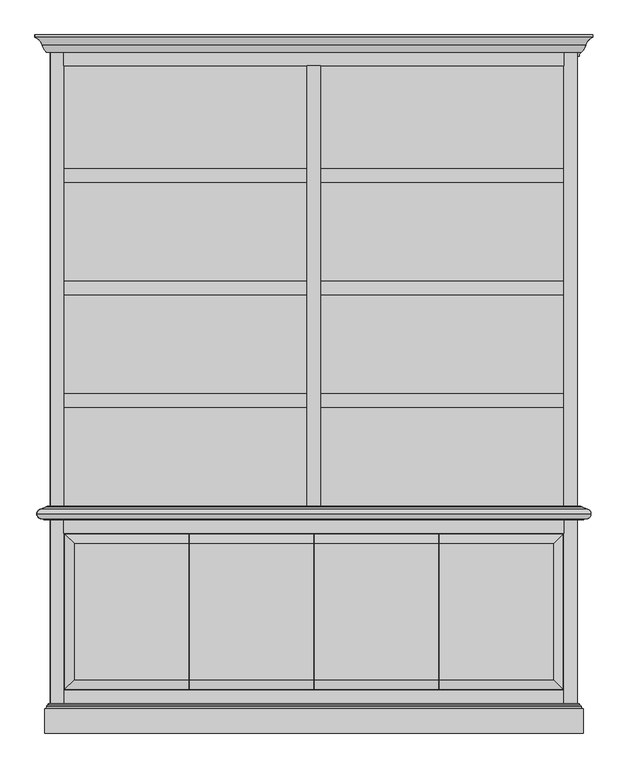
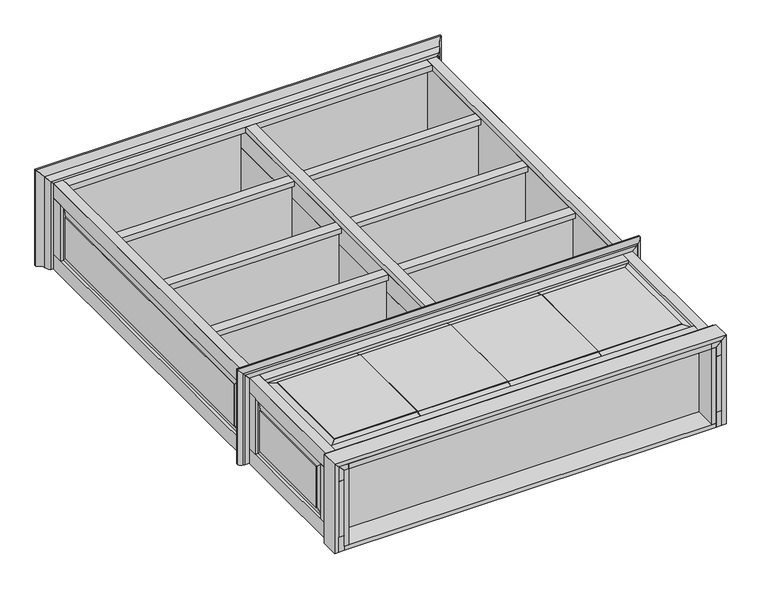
"""IFC4 building model written with IfcOpenShell, lengths in millimetres: proxy geometry, CAMBRIDGE^STORAGE 1_2 DOOR 3 SHELVES-PARTS SOLID."""

from ifc_helpers import new_model, si_unit, frame, origin, origin_with_axes, place, context, project, spatial, polyline, circle_curve, ellipse_curve, outline, extrude, faceted_brep, source, transform, mapped, element, save
from ifc_brep_helpers import plane_surface, cylinder_surface, revolved_surface, advanced_brep


def generic_models_68b85fac(model_context):
    return source(origin(), model_context, "Body", "SolidModel", [
        extrude(outline(polyline([(814.3875, 1847.85), (814.3875, 1822.45), (20.6375, 1822.45), (20.6375, 1847.85), (814.3875, 1847.85)])), frame((0.0, 0.0, 19.05), z_axis=(0.0, 0.0, 1.0), x_axis=(1.0, 0.0, 0.0)), (0.0, 0.0, 1.0), 336.55),
        extrude(outline(polyline([(862.0125, 1822.45), (862.0125, 1847.85), (1655.7625, 1847.85), (1655.7625, 1822.45), (862.0125, 1822.45)])), frame((0.0, 0.0, 19.05), z_axis=(0.0, 0.0, 1.0), x_axis=(1.0, 0.0, 0.0)), (0.0, 0.0, 1.0), 336.55),
        advanced_brep(
        [(1727.1440118, 2286.0, 431.7440118), (1701.8, 2249.805, 406.4), (-25.4, 2249.805, 406.4), (-50.7440118, 2286.0, 431.7440118), (-38.4061695, 2228.85, 419.4061695), (1714.8061695, 2228.85, 419.4061695), (1728.5133719, 2252.0938145, 433.1133719), (-52.1133719, 2252.0938145, 433.1133719), (1752.6, 2278.0752, 457.2), (-76.2, 2278.0752, 457.2), (1701.8, 2228.85, 406.4), (-25.4, 2228.85, 406.4), (-76.2, 2286.0, 457.2), (1752.6, 2286.0, 457.2)],
        [
            (0, 1),
            (1, 2),
            (2, 3),
            (3, 0),
            (4, 5),
            (5, 6, ellipse_curve(frame((1679.4734, 2265.3498, 384.0734), z_axis=(-0.7071067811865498, 0.0, 0.7071067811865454), x_axis=(-0.7071067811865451, 0.0, -0.7071067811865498)), 71.842049, 50.8)),
            (6, 7),
            (7, 4, ellipse_curve(frame((-3.0734, 2265.3498, 384.0734), z_axis=(0.7071067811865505, 0.0, 0.7071067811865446), x_axis=(-0.7071067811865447, 0.0, 0.7071067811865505)), 71.842049, 50.8)),
            (6, 8, ellipse_curve(frame((1765.2933509, 2242.1518254, 469.8933509), z_axis=(0.7071067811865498, 0.0, -0.7071067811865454), x_axis=(-0.7071067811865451, 0.0, -0.7071067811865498)), 53.8815367, 38.1)),
            (8, 9),
            (9, 7, ellipse_curve(frame((-88.8933509, 2242.1518254, 469.8933509), z_axis=(-0.7071067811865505, 0.0, -0.7071067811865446), x_axis=(-0.7071067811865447, 0.0, 0.7071067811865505)), 53.8815367, 38.1)),
            (1, 10),
            (10, 11),
            (11, 2),
            (11, 4),
            (9, 12),
            (12, 3),
            (10, 5),
            (8, 13),
            (13, 12),
            (0, 13),
        ],
        [
            plane_surface(frame((1701.8, 2249.805, 406.4), z_axis=(0.0, 0.5735764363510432, -0.8191520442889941), x_axis=(0.4975428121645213, 0.7105647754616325, 0.49754281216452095))),
            cylinder_surface(frame((1679.4734, 2265.3498, 384.0734), z_axis=(-1.0, 0.0, 0.0), x_axis=(0.0, 0.0, -1.0)), 50.8),
            revolved_surface(polyline([(-126.9933508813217, 2242.1518254, 431.79335089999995), (1803.3933508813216, 2242.1518254, 431.79335089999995)]), (1765.2933509, 2242.1518254, 469.8933509), (-1.0, 0.0, 0.0)),
            plane_surface(frame((1701.8, 2241.55, 406.4), z_axis=(0.0, 0.0, -1.0), x_axis=(-1.0, 0.0, 0.0))),
            plane_surface(frame((-25.4, 2241.55, 406.4), z_axis=(-0.7071067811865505, 0.0, -0.7071067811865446), x_axis=(-0.7071067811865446, 0.0, 0.7071067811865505))),
            plane_surface(frame((838.2, 2228.85, 431.8), z_axis=(0.0, -1.0, 0.0), x_axis=(0.0, 0.0, -1.0))),
            plane_surface(frame((-76.2, 2241.55, 457.2), z_axis=(0.0, 0.0, 1.0), x_axis=(1.0, 0.0, 0.0))),
            plane_surface(frame((1752.6, 2241.55, 457.2), z_axis=(0.7071067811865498, 0.0, -0.7071067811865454), x_axis=(-0.7071067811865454, 0.0, -0.7071067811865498))),
            plane_surface(frame((838.2, 2286.0, 431.8), z_axis=(0.0, 1.0, 0.0), x_axis=(0.0, 0.0, 1.0))),
        ],
        [
            (0, [[1, 2, 3, 4]]),
            (1, [[5, 6, 7, 8]]),
            (2, [[9, 10, 11, -7]]),
            (3, [[-2, 12, 13, 14]]),
            (4, [[-3, -14, 15, -8, -11, 16, 17]]),
            (5, [[-5, -15, -13, 18]]),
            (6, [[-10, 19, 20, -16]]),
            (7, [[-1, 21, -19, -9, -6, -18, -12]]),
            (8, [[-4, -17, -20, -21]]),
        ],
    ),
        advanced_brep(
        [(-52.851212, 701.6587803, 433.851212), (-69.85, 716.9259044, 450.85), (-69.85, 716.9259044, 0.0), (-52.851212, 701.6587803, 0.0), (-46.8882387, 698.5, 427.8882387), (-46.8882387, 698.5, 0.0), (-69.85, 718.0605577, 450.85), (-53.9851405, 733.3682311, 434.9851405), (-53.9851405, 733.3682311, 0.0), (-69.85, 718.0605577, 0.0), (-53.9851405, 734.9557311, 434.9851405), (-53.9851405, 734.9557311, 0.0), (-39.1133126, 740.3686338, 420.1133126), (-39.1133126, 740.3686338, 0.0), (-35.9028814, 742.95, 416.9028814), (-35.9028814, 742.95, 0.0), (-25.4, 698.5, 406.4), (-25.4, 742.95, 406.4), (-25.4, 742.95, 0.0), (-25.4, 698.5, 0.0)],
        [
            (0, 1, ellipse_curve(frame((-53.9851405, 717.4932311, 434.9851405), z_axis=(-0.7071067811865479, 0.0, -0.7071067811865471), x_axis=(0.7071067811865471, 0.0, -0.7071067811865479)), 22.4506403, 15.875)),
            (1, 2),
            (2, 3, circle_curve(frame((-53.9851405, 717.4932311, 0.0), z_axis=(0.0, 0.0, 1.0), x_axis=(-1.0, 0.0, 0.0)), 15.875)),
            (3, 0),
            (4, 0, ellipse_curve(frame((-52.3879067, 695.3257046, 433.3879067), z_axis=(0.7071067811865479, 0.0, 0.7071067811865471), x_axis=(0.7071067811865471, 0.0, -0.7071067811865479)), 8.9802561, 6.35)),
            (3, 5, circle_curve(frame((-52.3879067, 695.3257046, 0.0), z_axis=(0.0, 0.0, -1.0), x_axis=(1.0, 0.0, 0.0)), 6.35)),
            (5, 4),
            (6, 7, ellipse_curve(frame((-53.9851405, 717.4932311, 434.9851405), z_axis=(-0.7071067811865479, 0.0, -0.7071067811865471), x_axis=(0.7071067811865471, 0.0, -0.7071067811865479)), 22.4506403, 15.875)),
            (7, 8),
            (8, 9, circle_curve(frame((-53.9851405, 717.4932311, 0.0), z_axis=(0.0, 0.0, 1.0), x_axis=(-1.0, 0.0, 0.0)), 15.875)),
            (9, 6),
            (7, 10),
            (10, 11),
            (11, 8),
            (10, 12),
            (12, 13),
            (13, 11),
            (12, 14, ellipse_curve(frame((-41.2719911, 746.3404515, 422.2719911), z_axis=(0.7071067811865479, 0.0, 0.7071067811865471), x_axis=(0.7071067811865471, 0.0, -0.7071067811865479)), 8.9802561, 6.35)),
            (14, 15),
            (15, 13, circle_curve(frame((-41.2719911, 746.3404515, 0.0), z_axis=(0.0, 0.0, -1.0), x_axis=(1.0, 0.0, 0.0)), 6.35)),
            (4, 16),
            (16, 17),
            (17, 14),
            (6, 1),
            (9, 2),
            (17, 18),
            (18, 15),
            (16, 19),
            (19, 18),
            (5, 19),
        ],
        [
            cylinder_surface(frame((-53.9851405, 717.4932311, 434.9851405), z_axis=(0.0, 0.0, -1.0), x_axis=(-1.0, 0.0, 0.0)), 15.875),
            revolved_surface(polyline([(-46.0379067, 695.3257046, 0.0), (-46.0379067, 695.3257046, 439.73790668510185)]), (-52.3879067, 695.3257046, 433.3879067), (0.0, 0.0, -1.0)),
            plane_surface(frame((-53.9851405, 734.9557311, 434.9851405), z_axis=(-1.0, 0.0, 0.0), x_axis=(0.0, -1.0, 0.0))),
            plane_surface(frame((-39.1133126, 740.3686338, 420.1133126), z_axis=(-0.34202014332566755, 0.939692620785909, 0.0), x_axis=(-0.6847910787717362, -0.2492435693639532, 0.6847910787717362))),
            revolved_surface(polyline([(-34.9219911, 746.3404515, 0.0), (-34.9219911, 746.3404515, 428.62199108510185)]), (-41.2719911, 746.3404515, 422.2719911), (0.0, 0.0, -1.0)),
            plane_surface(frame((-47.625, 720.725, 428.625), z_axis=(0.7071067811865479, 0.0, 0.7071067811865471), x_axis=(-0.7071067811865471, 0.0, 0.7071067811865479))),
            plane_surface(frame((-69.85, 742.95, 0.0), z_axis=(-1.0, 0.0, 0.0), x_axis=(0.0, -1.0, 0.0))),
            plane_surface(frame((-25.4, 742.95, 0.0), z_axis=(0.0, 1.0, 0.0), x_axis=(-1.0, 0.0, 0.0))),
            plane_surface(frame((-25.4, 698.5, 0.0), z_axis=(1.0, 0.0, 0.0), x_axis=(0.0, 1.0, 0.0))),
            plane_surface(frame((-69.85, 698.5, 0.0), z_axis=(0.0, -1.0, 0.0), x_axis=(1.0, 0.0, 0.0))),
            plane_surface(frame((-47.625, 720.725, 0.0), z_axis=(0.0, 0.0, -1.0), x_axis=(-1.0, 0.0, 0.0))),
        ],
        [
            (0, [[1, 2, 3, 4]]),
            (1, [[5, -4, 6, 7]]),
            (0, [[8, 9, 10, 11]]),
            (2, [[12, 13, 14, -9]]),
            (3, [[15, 16, 17, -13]]),
            (4, [[18, 19, 20, -16]]),
            (5, [[-1, -5, 21, 22, 23, -18, -15, -12, -8, 24]]),
            (6, [[-2, -24, -11, 25]]),
            (7, [[-19, -23, 26, 27]]),
            (8, [[-22, 28, 29, -26]]),
            (9, [[-7, 30, -28, -21]]),
            (10, [[-3, -25, -10, -14, -17, -20, -27, -29, -30, -6]]),
        ],
    ),
        advanced_brep(
        [(1720.85, 79.375, 425.45), (1714.5, 85.725, 419.1), (-38.1, 85.725, 419.1), (-44.45, 79.375, 425.45), (1708.15, 92.075, 412.75), (-31.75, 92.075, 412.75), (1708.15, 95.25, 412.75), (-31.75, 95.25, 412.75), (1701.8, 95.25, 406.4), (-25.4, 95.25, 406.4), (1720.85, 0.0, 425.45), (1701.8, 0.0, 406.4), (-44.45, 0.0, 425.45), (-25.4, 0.0, 406.4)],
        [
            (0, 1, ellipse_curve(frame((1720.85, 85.725, 425.45), z_axis=(0.7071067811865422, 0.0, -0.7071067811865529), x_axis=(-0.7071067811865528, 0.0, -0.7071067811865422)), 8.9802561, 6.35)),
            (1, 2),
            (2, 3, ellipse_curve(frame((-44.45, 85.725, 425.45), z_axis=(-0.7071067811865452, 0.0, -0.7071067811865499), x_axis=(-0.7071067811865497, 0.0, 0.7071067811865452)), 8.9802561, 6.35)),
            (3, 0),
            (1, 4, ellipse_curve(frame((1708.15, 85.725, 412.75), z_axis=(-0.7071067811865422, 0.0, 0.7071067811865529), x_axis=(-0.7071067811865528, 0.0, -0.7071067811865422)), 8.9802561, 6.35)),
            (4, 5),
            (5, 2, ellipse_curve(frame((-31.75, 85.725, 412.75), z_axis=(0.7071067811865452, 0.0, 0.7071067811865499), x_axis=(-0.7071067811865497, 0.0, 0.7071067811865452)), 8.9802561, 6.35)),
            (4, 6),
            (6, 7),
            (7, 5),
            (6, 8),
            (8, 9),
            (9, 7),
            (0, 10),
            (10, 11),
            (11, 8),
            (3, 12),
            (12, 10),
            (9, 13),
            (13, 12),
            (11, 13),
        ],
        [
            revolved_surface(polyline([(-50.79999998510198, 85.725, 431.8), (1727.1999999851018, 85.725, 431.8)]), (1720.85, 85.725, 425.45), (-1.0, 0.0, 0.0)),
            cylinder_surface(frame((1708.15, 85.725, 412.75), z_axis=(-1.0, 0.0, 0.0), x_axis=(0.0, 0.0, 1.0)), 6.35),
            plane_surface(frame((1708.15, 95.25, 412.75), z_axis=(0.0, 0.0, 1.0), x_axis=(0.0, -1.0, 0.0))),
            plane_surface(frame((838.2, 95.25, 415.925), z_axis=(0.0, 1.0, 0.0), x_axis=(0.0, 0.0, 1.0))),
            plane_surface(frame((1720.85, 0.0, 425.45), z_axis=(0.7071067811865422, 0.0, -0.7071067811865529), x_axis=(-0.7071067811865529, 0.0, -0.7071067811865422))),
            plane_surface(frame((-44.45, 0.0, 425.45), z_axis=(0.0, 0.0, 1.0), x_axis=(1.0, 0.0, 0.0))),
            plane_surface(frame((-25.4, 0.0, 406.4), z_axis=(-0.7071067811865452, 0.0, -0.7071067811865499), x_axis=(-0.7071067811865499, 0.0, 0.7071067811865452))),
            plane_surface(frame((1701.8, 0.0, 406.4), z_axis=(0.0, 0.0, -1.0), x_axis=(-1.0, 0.0, 0.0))),
            plane_surface(frame((838.2, 0.0, 415.925), z_axis=(0.0, -1.0, 0.0), x_axis=(0.0, 0.0, -1.0))),
        ],
        [
            (0, [[1, 2, 3, 4]]),
            (1, [[5, 6, 7, -2]]),
            (2, [[8, 9, 10, -6]]),
            (3, [[-9, 11, 12, 13]]),
            (4, [[-8, -5, -1, 14, 15, 16, -11]]),
            (5, [[-4, 17, 18, -14]]),
            (6, [[-10, -13, 19, 20, -17, -3, -7]]),
            (7, [[21, -19, -12, -16]]),
            (8, [[-15, -18, -20, -21]]),
        ],
    ),
        extrude(outline(polyline([(814.3875, 1847.85), (814.3875, 1803.4), (20.6375, 1803.4), (20.6375, 1847.85), (814.3875, 1847.85)])), frame((0.0, 0.0, 355.6), z_axis=(0.0, 0.0, 1.0), x_axis=(1.0, 0.0, 0.0)), (0.0, 0.0, 1.0), 25.4),
        extrude(outline(polyline([(862.0125, 1803.4), (862.0125, 1847.85), (1655.7625, 1847.85), (1655.7625, 1803.4), (862.0125, 1803.4)])), frame((0.0, 0.0, 355.6), z_axis=(0.0, 0.0, 1.0), x_axis=(1.0, 0.0, 0.0)), (0.0, 0.0, 1.0), 25.4),
        advanced_brep(
        [(1720.85, 79.375, 0.0), (1714.5, 85.725, 0.0), (1714.5, 85.725, 419.1), (1720.85, 79.375, 425.45), (1708.15, 92.075, 0.0), (1708.15, 92.075, 412.75), (1708.15, 95.25, 0.0), (1708.15, 95.25, 412.75), (1701.8, 95.25, 406.4), (1701.8, 0.0, 406.4), (1720.85, 0.0, 425.45), (1701.8, 95.25, 0.0), (1701.8, 0.0, 0.0), (1720.85, 0.0, 0.0)],
        [
            (0, 1, circle_curve(frame((1720.85, 85.725, 0.0), z_axis=(0.0, 0.0, -1.0), x_axis=(0.0, -1.0, 0.0)), 6.35)),
            (1, 2),
            (2, 3, ellipse_curve(frame((1720.85, 85.725, 425.45), z_axis=(-0.7071067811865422, 0.0, 0.7071067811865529), x_axis=(0.707106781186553, 0.0, 0.707106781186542)), 8.9802561, 6.35)),
            (3, 0),
            (1, 4, circle_curve(frame((1708.15, 85.725, 0.0), z_axis=(0.0, 0.0, 1.0), x_axis=(0.0, -1.0, 0.0)), 6.35)),
            (4, 5),
            (5, 2, ellipse_curve(frame((1708.15, 85.725, 412.75), z_axis=(0.7071067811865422, 0.0, -0.7071067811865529), x_axis=(0.707106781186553, 0.0, 0.707106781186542)), 8.9802561, 6.35)),
            (4, 6),
            (6, 7),
            (7, 5),
            (7, 8),
            (8, 9),
            (9, 10),
            (10, 3),
            (6, 11),
            (11, 8),
            (12, 9),
            (11, 12),
            (0, 13),
            (13, 12),
            (10, 13),
        ],
        [
            revolved_surface(polyline([(1720.85, 79.375, 431.7999999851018), (1720.85, 79.375, 0.0)]), (1720.85, 85.725, 0.0), (0.0, 0.0, 1.0)),
            cylinder_surface(frame((1708.15, 85.725, 0.0), z_axis=(0.0, 0.0, 1.0), x_axis=(0.0, -1.0, 0.0)), 6.35),
            plane_surface(frame((1708.15, 95.25, 0.0), z_axis=(1.0, 0.0, 0.0), x_axis=(0.0, -1.0, 0.0))),
            plane_surface(frame((1701.8, 0.0, 406.4), z_axis=(-0.7071067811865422, 0.0, 0.7071067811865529), x_axis=(0.7071067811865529, 0.0, 0.7071067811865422))),
            plane_surface(frame((1711.325, 95.25, 212.725), z_axis=(0.0, 1.0, 0.0), x_axis=(0.0, 0.0, 1.0))),
            plane_surface(frame((1701.8, 0.0, 0.0), z_axis=(-1.0, 0.0, 0.0), x_axis=(0.0, 0.0, 1.0))),
            plane_surface(frame((1720.85, 0.0, 0.0), z_axis=(0.0, 0.0, -1.0), x_axis=(-1.0, 0.0, 0.0))),
            plane_surface(frame((1720.85, 0.0, 425.45), z_axis=(1.0, 0.0, 0.0), x_axis=(0.0, 0.0, -1.0))),
            plane_surface(frame((1711.325, 0.0, 212.725), z_axis=(0.0, -1.0, 0.0), x_axis=(0.0, 0.0, -1.0))),
        ],
        [
            (0, [[1, 2, 3, 4]]),
            (1, [[5, 6, 7, -2]]),
            (2, [[8, 9, 10, -6]]),
            (3, [[-3, -7, -10, 11, 12, 13, 14]]),
            (4, [[-9, 15, 16, -11]]),
            (5, [[17, -12, -16, 18]]),
            (6, [[-1, 19, 20, -18, -15, -8, -5]]),
            (7, [[-4, -14, 21, -19]]),
            (8, [[-21, -13, -17, -20]]),
        ],
    ),
        extrude(outline(polyline([(1657.35, 742.95), (1657.35, 711.2), (19.05, 711.2), (19.05, 742.95), (1657.35, 742.95)])), frame((0.0, 0.0, 19.05), z_axis=(0.0, 0.0, 1.0), x_axis=(1.0, 0.0, 0.0)), (0.0, 0.0, 1.0), 387.35),
        extrude(outline(polyline([(0.0, 2241.55), (0.0, 2171.7), (-25.4, 2171.7), (-25.4, 2241.55), (0.0, 2241.55)])), frame((0.0, 0.0, 69.85), z_axis=(0.0, 0.0, 1.0), x_axis=(1.0, 0.0, 0.0)), (0.0, 0.0, 1.0), 266.7),
        extrude(outline(polyline([(814.3875, 1479.55), (814.3875, 1435.1), (20.6375, 1435.1), (20.6375, 1479.55), (814.3875, 1479.55)])), frame((0.0, 0.0, 355.6), z_axis=(0.0, 0.0, 1.0), x_axis=(1.0, 0.0, 0.0)), (0.0, 0.0, 1.0), 25.4),
        extrude(outline(polyline([(862.0125, 1435.1), (862.0125, 1479.55), (1655.7625, 1479.55), (1655.7625, 1435.1), (862.0125, 1435.1)])), frame((0.0, 0.0, 355.6), z_axis=(0.0, 0.0, 1.0), x_axis=(1.0, 0.0, 0.0)), (0.0, 0.0, 1.0), 25.4),
        extrude(outline(polyline([(1676.4, 2171.7), (1676.4, 2241.55), (1701.8, 2241.55), (1701.8, 2171.7), (1676.4, 2171.7)])), frame((0.0, 0.0, 69.85), z_axis=(0.0, 0.0, 1.0), x_axis=(1.0, 0.0, 0.0)), (0.0, 0.0, 1.0), 266.7),
        extrude(outline(polyline([(1676.4, 0.0), (1676.4, 2241.55), (1701.8, 2241.55), (1701.8, 0.0), (1676.4, 0.0)])), origin_with_axes(), (0.0, 0.0, 1.0), 69.85),
        advanced_brep(
        [(1727.1440118, 2286.0, 0.0), (1701.8, 2249.805, 0.0), (1701.8, 2249.805, 406.4), (1727.1440118, 2286.0, 431.7440118), (1707.3626, 2216.15, 0.0), (1707.3626, 2222.8900246, 0.0), (1707.3626, 2222.8900246, 411.9626), (1707.3626, 2216.15, 411.9626), (1728.5133719, 2252.0938145, 0.0), (1728.5133719, 2252.0938145, 433.1133719), (1752.6, 2278.0752, 0.0), (1752.6, 2278.0752, 457.2), (1701.8, 2216.15, 0.0), (1701.8, 2216.15, 406.4), (1752.6, 2286.0, 457.2), (1752.6, 2286.0, 0.0)],
        [
            (0, 1),
            (1, 2),
            (2, 3),
            (3, 0),
            (4, 5),
            (5, 6),
            (6, 7),
            (7, 4),
            (5, 8, circle_curve(frame((1679.4734, 2265.3498, 0.0), z_axis=(0.0, 0.0, 1.0), x_axis=(-0.9653537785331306, 0.26094459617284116, 0.0)), 50.8)),
            (8, 9),
            (9, 6, ellipse_curve(frame((1679.4734, 2265.3498, 384.0734), z_axis=(0.7071067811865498, 0.0, -0.7071067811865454), x_axis=(0.7071067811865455, 0.0, 0.7071067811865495)), 71.842049, 50.8)),
            (8, 10, circle_curve(frame((1765.2933509, 2242.1518254, 0.0), z_axis=(0.0, 0.0, -1.0), x_axis=(-0.9653537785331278, 0.2609445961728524, 0.0)), 38.1)),
            (10, 11),
            (11, 9, ellipse_curve(frame((1765.2933509, 2242.1518254, 469.8933509), z_axis=(-0.7071067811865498, 0.0, 0.7071067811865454), x_axis=(0.7071067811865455, 0.0, 0.7071067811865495)), 53.8815367, 38.1)),
            (1, 12),
            (12, 13),
            (13, 2),
            (13, 7),
            (11, 14),
            (14, 3),
            (12, 4),
            (0, 15),
            (15, 10),
            (15, 14),
        ],
        [
            plane_surface(frame((1701.8, 2249.805, 0.0), z_axis=(-0.819152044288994, 0.573576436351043, 0.0), x_axis=(0.573576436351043, 0.819152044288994, 0.0))),
            plane_surface(frame((1707.3626, 2222.8900246, 0.0), z_axis=(1.0, 0.0, 0.0), x_axis=(0.0, -1.0, 0.0))),
            cylinder_surface(frame((1679.4734, 2265.3498, 0.0), z_axis=(0.0, 0.0, 0.9999999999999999), x_axis=(-0.9653537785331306, 0.26094459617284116, 0.0)), 50.8),
            revolved_surface(polyline([(1728.5133719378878, 2252.0938145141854, 507.99335088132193), (1728.5133719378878, 2252.0938145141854, 0.0)]), (1765.2933509, 2242.1518254, 0.0), (0.0, 0.0, 1.0)),
            plane_surface(frame((1701.8, 2241.55, 0.0), z_axis=(-1.0, 0.0, 0.0), x_axis=(0.0, 0.0, 1.0))),
            plane_surface(frame((1701.8, 2241.55, 406.4), z_axis=(-0.7071067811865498, 0.0, 0.7071067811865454), x_axis=(0.7071067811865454, 0.0, 0.7071067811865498))),
            plane_surface(frame((1727.2, 2216.15, 228.6), z_axis=(0.0, -1.0, 0.0), x_axis=(0.0, 0.0, -1.0))),
            plane_surface(frame((1752.6, 2241.55, 0.0), z_axis=(0.0, 0.0, -1.0), x_axis=(-1.0, 0.0, 0.0))),
            plane_surface(frame((1752.6, 2241.55, 457.2), z_axis=(1.0, 0.0, 0.0), x_axis=(0.0, 0.0, -1.0))),
            plane_surface(frame((1727.2, 2286.0, 228.6), z_axis=(0.0, 1.0, 0.0), x_axis=(0.0, 0.0, 1.0))),
        ],
        [
            (0, [[1, 2, 3, 4]]),
            (1, [[5, 6, 7, 8]]),
            (2, [[9, 10, 11, -6]]),
            (3, [[12, 13, 14, -10]]),
            (4, [[-2, 15, 16, 17]]),
            (5, [[-3, -17, 18, -7, -11, -14, 19, 20]]),
            (6, [[-8, -18, -16, 21]]),
            (7, [[-1, 22, 23, -12, -9, -5, -21, -15]]),
            (8, [[-13, -23, 24, -19]]),
            (9, [[-4, -20, -24, -22]]),
        ],
    ),
        extrude(outline(polyline([(860.425, 2184.4), (860.425, 742.95), (815.975, 742.95), (815.975, 2184.4), (860.425, 2184.4)])), frame((0.0, 0.0, 381.0), z_axis=(0.0, 0.0, 1.0), x_axis=(1.0, 0.0, 0.0)), (0.0, 0.0, 1.0), 25.4),
        advanced_brep(
        [(1729.251212, 701.6587803, 433.851212), (1746.25, 716.9259044, 450.85), (-69.85, 716.9259044, 450.85), (-52.851212, 701.6587803, 433.851212), (1723.2882387, 698.5, 427.8882387), (-46.8882387, 698.5, 427.8882387), (1746.25, 718.0605577, 450.85), (1730.3851405, 733.3682311, 434.9851405), (-53.9851405, 733.3682311, 434.9851405), (-69.85, 718.0605577, 450.85), (1730.3851405, 734.9557311, 434.9851405), (-53.9851405, 734.9557311, 434.9851405), (1715.5133126, 740.3686338, 420.1133126), (-39.1133126, 740.3686338, 420.1133126), (1712.3028814, 742.95, 416.9028814), (-35.9028814, 742.95, 416.9028814), (1701.8, 742.95, 406.4), (-25.4, 742.95, 406.4), (-25.4, 698.5, 406.4), (1701.8, 698.5, 406.4)],
        [
            (0, 1, ellipse_curve(frame((1730.3851405, 717.4932311, 434.9851405), z_axis=(-0.7071067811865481, 0.0, 0.707106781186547), x_axis=(-0.7071067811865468, 0.0, -0.7071067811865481)), 22.4506403, 15.875)),
            (1, 2),
            (2, 3, ellipse_curve(frame((-53.9851405, 717.4932311, 434.9851405), z_axis=(0.7071067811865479, 0.0, 0.7071067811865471), x_axis=(-0.7071067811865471, 0.0, 0.7071067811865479)), 22.4506403, 15.875)),
            (3, 0),
            (4, 0, ellipse_curve(frame((1728.7879067, 695.3257046, 433.3879067), z_axis=(0.7071067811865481, 0.0, -0.707106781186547), x_axis=(-0.7071067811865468, 0.0, -0.7071067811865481)), 8.9802561, 6.35)),
            (3, 5, ellipse_curve(frame((-52.3879067, 695.3257046, 433.3879067), z_axis=(-0.7071067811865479, 0.0, -0.7071067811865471), x_axis=(-0.7071067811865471, 0.0, 0.7071067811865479)), 8.9802561, 6.35)),
            (5, 4),
            (6, 7, ellipse_curve(frame((1730.3851405, 717.4932311, 434.9851405), z_axis=(-0.7071067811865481, 0.0, 0.707106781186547), x_axis=(-0.7071067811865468, 0.0, -0.7071067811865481)), 22.4506403, 15.875)),
            (7, 8),
            (8, 9, ellipse_curve(frame((-53.9851405, 717.4932311, 434.9851405), z_axis=(0.7071067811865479, 0.0, 0.7071067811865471), x_axis=(-0.7071067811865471, 0.0, 0.7071067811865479)), 22.4506403, 15.875)),
            (9, 6),
            (7, 10),
            (10, 11),
            (11, 8),
            (10, 12),
            (12, 13),
            (13, 11),
            (12, 14, ellipse_curve(frame((1717.6719911, 746.3404515, 422.2719911), z_axis=(0.7071067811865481, 0.0, -0.707106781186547), x_axis=(-0.7071067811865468, 0.0, -0.7071067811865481)), 8.9802561, 6.35)),
            (14, 15),
            (15, 13, ellipse_curve(frame((-41.2719911, 746.3404515, 422.2719911), z_axis=(-0.7071067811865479, 0.0, -0.7071067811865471), x_axis=(-0.7071067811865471, 0.0, 0.7071067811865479)), 8.9802561, 6.35)),
            (14, 16),
            (16, 17),
            (17, 15),
            (2, 9),
            (17, 18),
            (18, 5),
            (1, 6),
            (18, 19),
            (19, 4),
            (16, 19),
        ],
        [
            cylinder_surface(frame((1730.3851405, 717.4932311, 434.9851405), z_axis=(-1.0, 0.0, 0.0), x_axis=(0.0, 0.0, 1.0)), 15.875),
            revolved_surface(polyline([(-58.73790668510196, 695.3257046, 427.03790669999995), (1735.1379066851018, 695.3257046, 427.03790669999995)]), (1728.7879067, 695.3257046, 433.3879067), (-1.0, 0.0, 0.0)),
            plane_surface(frame((1730.3851405, 734.9557311, 434.9851405), z_axis=(0.0, 0.0, 1.0), x_axis=(0.0, -1.0, 0.0))),
            plane_surface(frame((1715.5133126, 740.3686338, 420.1133126), z_axis=(0.0, 0.9396926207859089, 0.34202014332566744), x_axis=(0.6847910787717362, -0.24924356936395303, 0.6847910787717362))),
            revolved_surface(polyline([(-47.621991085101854, 746.3404515, 415.92199109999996), (1724.021991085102, 746.3404515, 415.92199109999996)]), (1717.6719911, 746.3404515, 422.2719911), (-1.0, 0.0, 0.0)),
            plane_surface(frame((1701.8, 742.95, 406.4), z_axis=(0.0, 1.0, 0.0), x_axis=(-1.0, 0.0, 0.0))),
            plane_surface(frame((-47.625, 720.725, 428.625), z_axis=(-0.7071067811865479, 0.0, -0.7071067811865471), x_axis=(-0.7071067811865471, 0.0, 0.7071067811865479))),
            plane_surface(frame((838.2, 720.725, 450.85), z_axis=(0.0, 0.0, 1.0), x_axis=(1.0, 0.0, 0.0))),
            plane_surface(frame((-25.4, 698.5, 406.4), z_axis=(0.0, -1.0, 0.0), x_axis=(1.0, 0.0, 0.0))),
            plane_surface(frame((838.2, 720.725, 406.4), z_axis=(0.0, 0.0, -1.0), x_axis=(1.0, 0.0, 0.0))),
            plane_surface(frame((1724.025, 720.725, 428.625), z_axis=(0.7071067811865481, 0.0, -0.707106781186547), x_axis=(-0.707106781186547, 0.0, -0.7071067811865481))),
        ],
        [
            (0, [[1, 2, 3, 4]]),
            (1, [[5, -4, 6, 7]]),
            (0, [[8, 9, 10, 11]]),
            (2, [[12, 13, 14, -9]]),
            (3, [[15, 16, 17, -13]]),
            (4, [[18, 19, 20, -16]]),
            (5, [[-19, 21, 22, 23]]),
            (6, [[-6, -3, 24, -10, -14, -17, -20, -23, 25, 26]]),
            (7, [[-2, 27, -11, -24]]),
            (8, [[-7, -26, 28, 29]]),
            (9, [[-25, -22, 30, -28]]),
            (10, [[-5, -29, -30, -21, -18, -15, -12, -8, -27, -1]]),
        ],
    ),
        extrude(outline(polyline([(0.0, 2222.5), (19.05, 2222.5), (19.05, 0.0), (0.0, 0.0), (0.0, 2222.5)])), frame((0.0, 0.0, 19.05), z_axis=(0.0, 0.0, 1.0), x_axis=(1.0, 0.0, 0.0)), (0.0, 0.0, 1.0), 361.95),
        extrude(outline(polyline([(1676.4, 654.05), (1676.4, 787.4), (1701.8, 787.4), (1701.8, 654.05), (1676.4, 654.05)])), frame((0.0, 0.0, 69.85), z_axis=(0.0, 0.0, 1.0), x_axis=(1.0, 0.0, 0.0)), (0.0, 0.0, 1.0), 266.7),
        extrude(outline(polyline([(1657.35, 2222.5), (1676.4, 2222.5), (1676.4, 0.0), (1657.35, 0.0), (1657.35, 2222.5)])), frame((0.0, 0.0, 19.05), z_axis=(0.0, 0.0, 1.0), x_axis=(1.0, 0.0, 0.0)), (0.0, 0.0, 1.0), 361.95),
        faceted_brep([(-22.225, 174.625, 104.775), (-25.4, 174.625, 104.775), (-25.4, 619.125, 104.775), (-22.225, 619.125, 104.775), (-13.7176131, 142.875, 73.025), (-13.7176131, 650.875, 73.025), (-6.35, 142.875, 73.025), (-6.35, 650.875, 73.025), (-22.225, 174.625, 301.625), (-25.4, 174.625, 301.625), (-13.7176131, 142.875, 333.375), (-6.35, 142.875, 333.375), (-6.35, 654.05, 336.55), (-6.35, 654.05, 69.85), (-6.35, 139.7, 69.85), (-6.35, 139.7, 336.55), (-6.35, 650.875, 333.375), (-22.225, 619.125, 301.625), (-25.4, 619.125, 301.625), (-13.7176131, 650.875, 333.375), (0.0, 654.05, 69.85), (0.0, 139.7, 69.85), (0.0, 139.7, 336.55), (0.0, 654.05, 336.55)], [[[0, 1, 2, 3]], [[4, 0, 3, 5]], [[6, 4, 5, 7]], [[8, 9, 1, 0]], [[10, 8, 0, 4]], [[11, 10, 4, 6]], [[12, 13, 14, 15], [16, 11, 6, 7]], [[17, 18, 9, 8]], [[19, 17, 8, 10]], [[16, 19, 10, 11]], [[3, 2, 18, 17]], [[5, 3, 17, 19]], [[7, 5, 19, 16]], [[14, 13, 20, 21]], [[15, 14, 21, 22]], [[12, 15, 22, 23]], [[13, 12, 23, 20]], [[2, 1, 9, 18]], [[22, 21, 20, 23]]]),
        extrude(outline(polyline([(1657.35, 2241.55), (1657.35, 2184.4), (19.05, 2184.4), (19.05, 2241.55), (1657.35, 2241.55)])), frame((0.0, 0.0, 381.0), z_axis=(0.0, 0.0, 1.0), x_axis=(1.0, 0.0, 0.0)), (0.0, 0.0, 1.0), 25.4),
        extrude(outline(polyline([(142.875, 394.7176131), (174.625, 403.225), (174.625, 406.4), (619.125, 406.4), (619.125, 403.225), (650.875, 394.7176131), (650.875, 387.35), (142.875, 387.35), (142.875, 394.7176131)])), frame((431.00625, 0.0, 0.0), z_axis=(1.0, 0.0, 0.0), x_axis=(0.0, 1.0, 0.0)), (0.0, 0.0, 1.0), 405.60625),
        extrude(outline(polyline([(0.0, 787.4), (0.0, 654.05), (-25.4, 654.05), (-25.4, 787.4), (0.0, 787.4)])), frame((0.0, 0.0, 69.85), z_axis=(0.0, 0.0, 1.0), x_axis=(1.0, 0.0, 0.0)), (0.0, 0.0, 1.0), 266.7),
        extrude(outline(polyline([(0.0, 2241.55), (1676.4, 2241.55), (1676.4, 2222.5), (0.0, 2222.5), (0.0, 2241.55)])), frame((0.0, 0.0, 19.05), z_axis=(0.0, 0.0, 1.0), x_axis=(1.0, 0.0, 0.0)), (0.0, 0.0, 1.0), 361.95),
        advanced_brep(
        [(1729.251212, 701.6587803, 0.0), (1746.25, 716.9259044, 0.0), (1746.25, 716.9259044, 450.85), (1729.251212, 701.6587803, 433.851212), (1723.2882387, 698.5, 0.0), (1723.2882387, 698.5, 427.8882387), (1746.25, 718.0605577, 0.0), (1730.3851405, 733.3682311, 0.0), (1730.3851405, 733.3682311, 434.9851405), (1746.25, 718.0605577, 450.85), (1730.3851405, 734.9557311, 0.0), (1730.3851405, 734.9557311, 434.9851405), (1715.5133126, 740.3686338, 0.0), (1715.5133126, 740.3686338, 420.1133126), (1712.3028814, 742.95, 0.0), (1712.3028814, 742.95, 416.9028814), (1701.8, 698.5, 406.4), (1701.8, 698.5, 0.0), (1701.8, 742.95, 0.0), (1701.8, 742.95, 406.4)],
        [
            (0, 1, circle_curve(frame((1730.3851405, 717.4932311, 0.0), z_axis=(0.0, 0.0, 1.0), x_axis=(0.0, -1.0, 0.0)), 15.875)),
            (1, 2),
            (2, 3, ellipse_curve(frame((1730.3851405, 717.4932311, 434.9851405), z_axis=(0.7071067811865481, 0.0, -0.707106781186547), x_axis=(0.707106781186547, 0.0, 0.7071067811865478)), 22.4506403, 15.875)),
            (3, 0),
            (4, 0, circle_curve(frame((1728.7879067, 695.3257046, 0.0), z_axis=(0.0, 0.0, -1.0), x_axis=(-0.866089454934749, 0.4998890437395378, 0.0)), 6.35)),
            (3, 5, ellipse_curve(frame((1728.7879067, 695.3257046, 433.3879067), z_axis=(-0.7071067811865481, 0.0, 0.707106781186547), x_axis=(0.707106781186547, 0.0, 0.7071067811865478)), 8.9802561, 6.35)),
            (5, 4),
            (6, 7, circle_curve(frame((1730.3851405, 717.4932311, 0.0), z_axis=(0.0, 0.0, 1.0), x_axis=(0.0, -1.0, 0.0)), 15.875)),
            (7, 8),
            (8, 9, ellipse_curve(frame((1730.3851405, 717.4932311, 434.9851405), z_axis=(0.7071067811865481, 0.0, -0.707106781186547), x_axis=(0.707106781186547, 0.0, 0.7071067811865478)), 22.4506403, 15.875)),
            (9, 6),
            (7, 10),
            (10, 11),
            (11, 8),
            (10, 12),
            (12, 13),
            (13, 11),
            (12, 14, circle_curve(frame((1717.6719911, 746.3404515, 0.0), z_axis=(0.0, 0.0, -1.0), x_axis=(-0.3399493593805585, -0.9404437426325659, 0.0)), 6.35)),
            (14, 15),
            (15, 13, ellipse_curve(frame((1717.6719911, 746.3404515, 422.2719911), z_axis=(-0.7071067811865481, 0.0, 0.707106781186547), x_axis=(0.707106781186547, 0.0, 0.7071067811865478)), 8.9802561, 6.35)),
            (5, 16),
            (16, 17),
            (17, 4),
            (17, 18),
            (18, 14),
            (6, 1),
            (9, 2),
            (16, 19),
            (19, 18),
            (19, 15),
        ],
        [
            cylinder_surface(frame((1730.3851405, 717.4932311, 0.0), z_axis=(0.0, 0.0, 1.0), x_axis=(0.0, -1.0, 0.0)), 15.875),
            revolved_surface(polyline([(1723.2882386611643, 698.5000000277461, 439.73790668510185), (1723.2882386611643, 698.5000000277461, 0.0)]), (1728.7879067, 695.3257046, 0.0), (0.0, 0.0, 1.0)),
            plane_surface(frame((1730.3851405, 734.9557311, 0.0), z_axis=(1.0, 0.0, 0.0), x_axis=(0.0, -1.0, 0.0))),
            plane_surface(frame((1715.5133126, 740.3686338, 0.0), z_axis=(0.34202014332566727, 0.939692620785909, 0.0), x_axis=(0.939692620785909, -0.34202014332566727, 0.0))),
            revolved_surface(polyline([(1715.5133126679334, 740.3686337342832, 428.62199108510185), (1715.5133126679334, 740.3686337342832, 0.0)]), (1717.6719911, 746.3404515, 0.0), (0.0, 0.0, 1.0)),
            plane_surface(frame((1701.8, 698.5, 0.0), z_axis=(0.0, -1.0, 0.0), x_axis=(1.0, 0.0, 0.0))),
            plane_surface(frame((1724.025, 720.725, 0.0), z_axis=(0.0, 0.0, -1.0), x_axis=(-1.0, 0.0, 0.0))),
            plane_surface(frame((1746.25, 698.5, 0.0), z_axis=(1.0, 0.0, 0.0), x_axis=(0.0, 1.0, 0.0))),
            plane_surface(frame((1701.8, 742.95, 0.0), z_axis=(-1.0, 0.0, 0.0), x_axis=(0.0, -1.0, 0.0))),
            plane_surface(frame((1746.25, 742.95, 0.0), z_axis=(0.0, 1.0, 0.0), x_axis=(-1.0, 0.0, 0.0))),
            plane_surface(frame((1724.025, 720.725, 428.625), z_axis=(-0.7071067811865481, 0.0, 0.707106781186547), x_axis=(-0.707106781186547, 0.0, -0.7071067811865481))),
        ],
        [
            (0, [[1, 2, 3, 4]]),
            (1, [[5, -4, 6, 7]]),
            (0, [[8, 9, 10, 11]]),
            (2, [[12, 13, 14, -9]]),
            (3, [[15, 16, 17, -13]]),
            (4, [[18, 19, 20, -16]]),
            (5, [[-7, 21, 22, 23]]),
            (6, [[-1, -5, -23, 24, 25, -18, -15, -12, -8, 26]]),
            (7, [[-2, -26, -11, 27]]),
            (8, [[28, 29, -24, -22]]),
            (9, [[-19, -25, -29, 30]]),
            (10, [[-3, -27, -10, -14, -17, -20, -30, -28, -21, -6]]),
        ],
    ),
        extrude(outline(polyline([(0.0, 2241.55), (0.0, 0.0), (-25.4, 0.0), (-25.4, 2241.55), (0.0, 2241.55)])), origin_with_axes(), (0.0, 0.0, 1.0), 69.85),
        extrude(outline(polyline([(1676.4, 0.0), (1676.4, 139.7), (1701.8, 139.7), (1701.8, 0.0), (1676.4, 0.0)])), frame((0.0, 0.0, 69.85), z_axis=(0.0, 0.0, 1.0), x_axis=(1.0, 0.0, 0.0)), (0.0, 0.0, 1.0), 266.7),
        advanced_brep(
        [(-44.45, 79.375, 425.45), (-38.1, 85.725, 419.1), (-38.1, 85.725, 0.0), (-44.45, 79.375, 0.0), (-31.75, 92.075, 412.75), (-31.75, 92.075, 0.0), (-31.75, 95.25, 412.75), (-31.75, 95.25, 0.0), (-44.45, 0.0, 425.45), (-25.4, 0.0, 406.4), (-25.4, 95.25, 406.4), (-44.45, 0.0, 0.0), (-25.4, 95.25, 0.0), (-25.4, 0.0, 0.0)],
        [
            (0, 1, ellipse_curve(frame((-44.45, 85.725, 425.45), z_axis=(0.7071067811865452, 0.0, 0.7071067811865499), x_axis=(0.7071067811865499, 0.0, -0.707106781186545)), 8.9802561, 6.35)),
            (1, 2),
            (2, 3, circle_curve(frame((-44.45, 85.725, 0.0), z_axis=(0.0, 0.0, -1.0), x_axis=(-1.0, 0.0, 0.0)), 6.35)),
            (3, 0),
            (1, 4, ellipse_curve(frame((-31.75, 85.725, 412.75), z_axis=(-0.7071067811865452, 0.0, -0.7071067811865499), x_axis=(0.7071067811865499, 0.0, -0.707106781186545)), 8.9802561, 6.35)),
            (4, 5),
            (5, 2, circle_curve(frame((-31.75, 85.725, 0.0), z_axis=(0.0, 0.0, 1.0), x_axis=(-1.0, 0.0, 0.0)), 6.35)),
            (4, 6),
            (6, 7),
            (7, 5),
            (0, 8),
            (8, 9),
            (9, 10),
            (10, 6),
            (3, 11),
            (11, 8),
            (7, 12),
            (12, 13),
            (13, 11),
            (9, 13),
            (12, 10),
        ],
        [
            revolved_surface(polyline([(-50.800000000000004, 85.725, 0.0), (-50.800000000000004, 85.725, 431.7999999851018)]), (-44.45, 85.725, 425.45), (0.0, 0.0, -1.0)),
            cylinder_surface(frame((-31.75, 85.725, 412.75), z_axis=(0.0, 0.0, -1.0), x_axis=(-1.0, 0.0, 0.0)), 6.35),
            plane_surface(frame((-31.75, 95.25, 412.75), z_axis=(-1.0, 0.0, 0.0), x_axis=(0.0, -1.0, 0.0))),
            plane_surface(frame((-44.45, 0.0, 425.45), z_axis=(0.7071067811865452, 0.0, 0.7071067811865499), x_axis=(0.7071067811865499, 0.0, -0.7071067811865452))),
            plane_surface(frame((-44.45, 0.0, 0.0), z_axis=(-1.0, 0.0, 0.0), x_axis=(0.0, 0.0, 1.0))),
            plane_surface(frame((-25.4, 0.0, 0.0), z_axis=(0.0, 0.0, -1.0), x_axis=(-1.0, 0.0, 0.0))),
            plane_surface(frame((-25.4, 0.0, 406.4), z_axis=(1.0, 0.0, 0.0), x_axis=(0.0, 0.0, -1.0))),
            plane_surface(frame((-34.925, 0.0, 212.725), z_axis=(0.0, -1.0, 0.0), x_axis=(0.0, 0.0, -1.0))),
            plane_surface(frame((-34.925, 95.25, 212.725), z_axis=(0.0, 1.0, 0.0), x_axis=(0.0, 0.0, 1.0))),
        ],
        [
            (0, [[1, 2, 3, 4]]),
            (1, [[5, 6, 7, -2]]),
            (2, [[8, 9, 10, -6]]),
            (3, [[-8, -5, -1, 11, 12, 13, 14]]),
            (4, [[-4, 15, 16, -11]]),
            (5, [[-10, 17, 18, 19, -15, -3, -7]]),
            (6, [[20, -18, 21, -13]]),
            (7, [[-20, -12, -16, -19]]),
            (8, [[-9, -14, -21, -17]]),
        ],
    ),
        faceted_brep([(1701.8, 822.325, 104.775), (1698.625, 822.325, 104.775), (1698.625, 2136.775, 104.775), (1701.8, 2136.775, 104.775), (1690.1176131, 790.575, 73.025), (1690.1176131, 2168.525, 73.025), (1682.75, 790.575, 73.025), (1682.75, 2168.525, 73.025), (1701.8, 822.325, 301.625), (1698.625, 822.325, 301.625), (1690.1176131, 790.575, 333.375), (1682.75, 790.575, 333.375), (1701.8, 2136.775, 301.625), (1698.625, 2136.775, 301.625), (1690.1176131, 2168.525, 333.375), (1682.75, 2168.525, 333.375), (1682.75, 2171.7, 69.85), (1682.75, 2171.7, 336.55), (1682.75, 787.4, 336.55), (1682.75, 787.4, 69.85), (1676.4, 787.4, 336.55), (1676.4, 787.4, 69.85), (1676.4, 2171.7, 336.55), (1676.4, 2171.7, 69.85)], [[[0, 1, 2, 3]], [[1, 4, 5, 2]], [[4, 6, 7, 5]], [[8, 9, 1, 0]], [[9, 10, 4, 1]], [[10, 11, 6, 4]], [[12, 13, 9, 8]], [[13, 14, 10, 9]], [[14, 15, 11, 10]], [[16, 17, 18, 19], [11, 15, 7, 6]], [[2, 5, 14, 13]], [[3, 2, 13, 12]], [[5, 7, 15, 14]], [[19, 18, 20, 21]], [[18, 17, 22, 20]], [[17, 16, 23, 22]], [[16, 19, 21, 23]], [[0, 3, 12, 8]], [[21, 20, 22, 23]]]),
        faceted_brep([(427.83125, 174.625, 403.225), (427.83125, 174.625, 406.4), (53.975, 174.625, 406.4), (53.975, 174.625, 403.225), (427.83125, 142.875, 394.7176131), (22.225, 142.875, 394.7176131), (53.975, 619.125, 406.4), (53.975, 619.125, 403.225), (22.225, 650.875, 394.7176131), (427.83125, 619.125, 403.225), (427.83125, 650.875, 394.7176131), (427.83125, 619.125, 406.4), (22.225, 142.875, 387.35), (427.83125, 142.875, 387.35), (22.225, 650.875, 387.35), (427.83125, 650.875, 387.35)], [[[0, 1, 2, 3]], [[4, 0, 3, 5]], [[6, 7, 3, 2]], [[7, 8, 5, 3]], [[9, 10, 8, 7]], [[11, 9, 7, 6]], [[4, 5, 12, 13]], [[5, 8, 14, 12]], [[1, 0, 4, 13, 15, 10, 9, 11]], [[8, 10, 15, 14]], [[2, 1, 11, 6]], [[13, 12, 14, 15]]]),
        advanced_brep(
        [(-50.7440118, 2286.0, 431.7440118), (-25.4, 2249.805, 406.4), (-25.4, 2249.805, 0.0), (-50.7440118, 2286.0, 0.0), (-38.4061695, 2228.85, 0.0), (-38.4061695, 2228.85, 419.4061695), (-52.1133719, 2252.0938145, 433.1133719), (-52.1133719, 2252.0938145, 0.0), (-76.2, 2278.0752, 457.2), (-76.2, 2278.0752, 0.0), (-25.4, 2228.85, 406.4), (-25.4, 2228.85, 0.0), (-76.2, 2286.0, 457.2), (-76.2, 2286.0, 0.0)],
        [
            (0, 1),
            (1, 2),
            (2, 3),
            (3, 0),
            (4, 5),
            (5, 6, ellipse_curve(frame((-3.0734, 2265.3498, 384.0734), z_axis=(-0.7071067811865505, 0.0, -0.7071067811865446), x_axis=(0.7071067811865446, 0.0, -0.7071067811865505)), 71.842049, 50.8)),
            (6, 7),
            (7, 4, circle_curve(frame((-3.0734, 2265.3498, 0.0), z_axis=(0.0, 0.0, 1.0), x_axis=(1.0, 0.0, 0.0)), 50.8)),
            (6, 8, ellipse_curve(frame((-88.8933509, 2242.1518254, 469.8933509), z_axis=(0.7071067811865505, 0.0, 0.7071067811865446), x_axis=(0.7071067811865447, 0.0, -0.7071067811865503)), 53.8815367, 38.1)),
            (8, 9),
            (9, 7, circle_curve(frame((-88.8933509, 2242.1518254, 0.0), z_axis=(0.0, 0.0, -1.0), x_axis=(1.0, 0.0, 0.0)), 38.1)),
            (1, 10),
            (10, 11),
            (11, 2),
            (8, 12),
            (12, 13),
            (13, 9),
            (11, 4),
            (13, 3),
            (10, 5),
            (0, 12),
        ],
        [
            plane_surface(frame((-25.4, 2249.805, 406.4), z_axis=(0.8191520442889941, 0.573576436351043, 0.0), x_axis=(-0.49754281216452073, 0.7105647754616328, 0.4975428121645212))),
            cylinder_surface(frame((-3.0734, 2265.3498, 384.0734), z_axis=(0.0, 0.0, -1.0), x_axis=(1.0, 0.0, 0.0)), 50.8),
            revolved_surface(polyline([(-50.7933509, 2242.1518254, 0.0), (-50.7933509, 2242.1518254, 507.99335088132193)]), (-88.8933509, 2242.1518254, 469.8933509), (0.0, 0.0, -1.0)),
            plane_surface(frame((-25.4, 2241.55, 406.4), z_axis=(1.0, 0.0, 0.0), x_axis=(0.0, 0.0, -1.0))),
            plane_surface(frame((-76.2, 2241.55, 0.0), z_axis=(-1.0, 0.0, 0.0), x_axis=(0.0, 0.0, 1.0))),
            plane_surface(frame((-25.4, 2241.55, 0.0), z_axis=(0.0, 0.0, -1.0), x_axis=(-1.0, 0.0, 0.0))),
            plane_surface(frame((-50.8, 2228.85, 228.6), z_axis=(0.0, -1.0, 0.0), x_axis=(0.0, 0.0, -1.0))),
            plane_surface(frame((-76.2, 2241.55, 457.2), z_axis=(0.7071067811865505, 0.0, 0.7071067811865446), x_axis=(0.7071067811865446, 0.0, -0.7071067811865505))),
            plane_surface(frame((-50.8, 2286.0, 228.6), z_axis=(0.0, 1.0, 0.0), x_axis=(0.0, 0.0, 1.0))),
        ],
        [
            (0, [[1, 2, 3, 4]]),
            (1, [[5, 6, 7, 8]]),
            (2, [[9, 10, 11, -7]]),
            (3, [[-2, 12, 13, 14]]),
            (4, [[-10, 15, 16, 17]]),
            (5, [[-3, -14, 18, -8, -11, -17, 19]]),
            (6, [[-5, -18, -13, 20]]),
            (7, [[-1, 21, -15, -9, -6, -20, -12]]),
            (8, [[-4, -19, -16, -21]]),
        ],
    ),
        extrude(outline(polyline([(0.0, 139.7), (0.0, 0.0), (-25.4, 0.0), (-25.4, 139.7), (0.0, 139.7)])), frame((0.0, 0.0, 69.85), z_axis=(0.0, 0.0, 1.0), x_axis=(1.0, 0.0, 0.0)), (0.0, 0.0, 1.0), 266.7),
        faceted_brep([(1701.8, 174.625, 104.775), (1698.625, 174.625, 104.775), (1698.625, 619.125, 104.775), (1701.8, 619.125, 104.775), (1690.1176131, 142.875, 73.025), (1690.1176131, 650.875, 73.025), (1682.75, 142.875, 73.025), (1682.75, 650.875, 73.025), (1701.8, 174.625, 301.625), (1698.625, 174.625, 301.625), (1690.1176131, 142.875, 333.375), (1682.75, 142.875, 333.375), (1682.75, 654.05, 69.85), (1682.75, 654.05, 336.55), (1682.75, 139.7, 336.55), (1682.75, 139.7, 69.85), (1682.75, 650.875, 333.375), (1701.8, 619.125, 301.625), (1698.625, 619.125, 301.625), (1690.1176131, 650.875, 333.375), (1676.4, 139.7, 69.85), (1676.4, 654.05, 69.85), (1676.4, 139.7, 336.55), (1676.4, 654.05, 336.55)], [[[0, 1, 2, 3]], [[1, 4, 5, 2]], [[4, 6, 7, 5]], [[8, 9, 1, 0]], [[9, 10, 4, 1]], [[10, 11, 6, 4]], [[12, 13, 14, 15], [11, 16, 7, 6]], [[17, 18, 9, 8]], [[18, 19, 10, 9]], [[19, 16, 11, 10]], [[3, 2, 18, 17]], [[2, 5, 19, 18]], [[5, 7, 16, 19]], [[12, 15, 20, 21]], [[15, 14, 22, 20]], [[14, 13, 23, 22]], [[13, 12, 21, 23]], [[0, 3, 17, 8]], [[20, 22, 23, 21]]]),
        extrude(outline(polyline([(19.05, 101.6), (19.05, 139.7), (1657.35, 139.7), (1657.35, 101.6), (19.05, 101.6)])), frame((0.0, 0.0, 19.05), z_axis=(0.0, 0.0, 1.0), x_axis=(1.0, 0.0, 0.0)), (0.0, 0.0, 1.0), 361.95),
        extrude(outline(polyline([(19.05, 711.2), (1657.35, 711.2), (1657.35, 654.05), (19.05, 654.05), (19.05, 711.2)])), frame((0.0, 0.0, 381.0), z_axis=(0.0, 0.0, 1.0), x_axis=(1.0, 0.0, 0.0)), (0.0, 0.0, 1.0), 25.4),
        faceted_brep([(-22.225, 822.325, 104.775), (-25.4, 822.325, 104.775), (-25.4, 2136.775, 104.775), (-22.225, 2136.775, 104.775), (-13.7176131, 790.575, 73.025), (-13.7176131, 2168.525, 73.025), (-6.35, 790.575, 73.025), (-6.35, 2168.525, 73.025), (-22.225, 822.325, 301.625), (-25.4, 822.325, 301.625), (-13.7176131, 790.575, 333.375), (-6.35, 790.575, 333.375), (-22.225, 2136.775, 301.625), (-25.4, 2136.775, 301.625), (-13.7176131, 2168.525, 333.375), (-6.35, 2168.525, 333.375), (-6.35, 2171.7, 336.55), (-6.35, 2171.7, 69.85), (-6.35, 787.4, 69.85), (-6.35, 787.4, 336.55), (0.0, 787.4, 69.85), (0.0, 787.4, 336.55), (0.0, 2171.7, 336.55), (0.0, 2171.7, 69.85)], [[[0, 1, 2, 3]], [[4, 0, 3, 5]], [[6, 4, 5, 7]], [[8, 9, 1, 0]], [[10, 8, 0, 4]], [[11, 10, 4, 6]], [[12, 13, 9, 8]], [[14, 12, 8, 10]], [[15, 14, 10, 11]], [[16, 17, 18, 19], [15, 11, 6, 7]], [[5, 3, 12, 14]], [[3, 2, 13, 12]], [[7, 5, 14, 15]], [[19, 18, 20, 21]], [[16, 19, 21, 22]], [[17, 16, 22, 23]], [[18, 17, 23, 20]], [[2, 1, 9, 13]], [[21, 20, 23, 22]]]),
        extrude(outline(polyline([(381.0, 1676.4), (406.4, 1701.8), (406.4, 1657.35), (381.0, 1657.35), (381.0, 1676.4)])), frame((0.0, 0.0, 0.0), z_axis=(0.0, 1.0, 0.0), x_axis=(0.0, 0.0, 1.0)), (0.0, 0.0, 1.0), 2241.55),
        extrude(outline(polyline([(814.3875, 1111.25), (814.3875, 1066.8), (20.6375, 1066.8), (20.6375, 1111.25), (814.3875, 1111.25)])), frame((0.0, 0.0, 355.6), z_axis=(0.0, 0.0, 1.0), x_axis=(1.0, 0.0, 0.0)), (0.0, 0.0, 1.0), 25.4),
        extrude(outline(polyline([(862.0125, 1066.8), (862.0125, 1111.25), (1655.7625, 1111.25), (1655.7625, 1066.8), (862.0125, 1066.8)])), frame((0.0, 0.0, 355.6), z_axis=(0.0, 0.0, 1.0), x_axis=(1.0, 0.0, 0.0)), (0.0, 0.0, 1.0), 25.4),
        extrude(outline(polyline([(287.734375, 860.425), (286.54375, 855.6625), (291.30625, 855.6625), (290.115625, 860.425), (381.0, 860.425), (381.0, 815.975), (290.115625, 815.975), (291.30625, 820.7375), (286.54375, 820.7375), (287.734375, 815.975), (19.05, 815.975), (19.05, 860.425), (287.734375, 860.425)])), frame((0.0, 742.95, 0.0), z_axis=(0.0, 1.0, 0.0), x_axis=(0.0, 0.0, 1.0)), (0.0, 0.0, 1.0), 1479.55),
        extrude(outline(polyline([(142.875, 394.7176131), (174.625, 403.225), (174.625, 406.4), (619.125, 406.4), (619.125, 403.225), (650.875, 394.7176131), (650.875, 387.35), (142.875, 387.35), (142.875, 394.7176131)])), frame((839.7875, 0.0, 0.0), z_axis=(1.0, 0.0, 0.0), x_axis=(0.0, 1.0, 0.0)), (0.0, 0.0, 1.0), 405.60625),
        extrude(outline(polyline([(336.55, -25.4), (336.55, 0.0), (381.0, 0.0), (406.4, -25.4), (336.55, -25.4)])), frame((0.0, 0.0, 0.0), z_axis=(0.0, 1.0, 0.0), x_axis=(0.0, 0.0, 1.0)), (0.0, 0.0, 1.0), 2241.55),
        extrude(outline(polyline([(406.4, 1701.8), (381.0, 1676.4), (336.55, 1676.4), (336.55, 1701.8), (406.4, 1701.8)])), frame((0.0, 0.0, 0.0), z_axis=(0.0, 1.0, 0.0), x_axis=(0.0, 0.0, 1.0)), (0.0, 0.0, 1.0), 2241.55),
        extrude(outline(polyline([(406.4, -25.4), (381.0, 0.0), (381.0, 19.05), (406.4, 19.05), (406.4, -25.4)])), frame((0.0, 0.0, 0.0), z_axis=(0.0, 1.0, 0.0), x_axis=(0.0, 0.0, 1.0)), (0.0, 0.0, 1.0), 2241.55),
        extrude(outline(polyline([(814.3875, 1111.25), (814.3875, 1085.85), (20.6375, 1085.85), (20.6375, 1111.25), (814.3875, 1111.25)])), frame((0.0, 0.0, 19.05), z_axis=(0.0, 0.0, 1.0), x_axis=(1.0, 0.0, 0.0)), (0.0, 0.0, 1.0), 336.55),
        extrude(outline(polyline([(862.0125, 1085.85), (862.0125, 1111.25), (1655.7625, 1111.25), (1655.7625, 1085.85), (862.0125, 1085.85)])), frame((0.0, 0.0, 19.05), z_axis=(0.0, 0.0, 1.0), x_axis=(1.0, 0.0, 0.0)), (0.0, 0.0, 1.0), 336.55),
        extrude(outline(polyline([(1676.4, 2241.55), (1676.4, 0.0), (0.0, 0.0), (0.0, 2241.55), (1676.4, 2241.55)])), origin_with_axes(), (0.0, 0.0, 1.0), 19.05),
        faceted_brep([(1248.56875, 650.875, 394.7176131), (1248.56875, 619.125, 403.225), (1622.425, 619.125, 403.225), (1654.175, 650.875, 394.7176131), (1248.56875, 174.625, 403.225), (1248.56875, 142.875, 394.7176131), (1654.175, 142.875, 394.7176131), (1622.425, 174.625, 403.225), (1622.425, 174.625, 406.4), (1622.425, 619.125, 406.4), (1248.56875, 174.625, 406.4), (1248.56875, 619.125, 406.4), (1654.175, 650.875, 387.35), (1248.56875, 650.875, 387.35), (1654.175, 142.875, 387.35), (1248.56875, 142.875, 387.35)], [[[0, 1, 2, 3]], [[4, 5, 6, 7]], [[8, 7, 2, 9]], [[7, 6, 3, 2]], [[10, 4, 7, 8]], [[1, 11, 9, 2]], [[0, 3, 12, 13]], [[3, 6, 14, 12]], [[6, 5, 15, 14]], [[1, 0, 13, 15, 5, 4, 10, 11]], [[9, 11, 10, 8]], [[14, 15, 13, 12]]]),
        extrude(outline(polyline([(1657.35, 139.7), (1657.35, 0.0), (19.05, 0.0), (19.05, 139.7), (1657.35, 139.7)])), frame((0.0, 0.0, 381.0), z_axis=(0.0, 0.0, 1.0), x_axis=(1.0, 0.0, 0.0)), (0.0, 0.0, 1.0), 25.4),
        extrude(outline(polyline([(862.0125, 1454.15), (862.0125, 1479.55), (1655.7625, 1479.55), (1655.7625, 1454.15), (862.0125, 1454.15)])), frame((0.0, 0.0, 19.05), z_axis=(0.0, 0.0, 1.0), x_axis=(1.0, 0.0, 0.0)), (0.0, 0.0, 1.0), 336.55),
        extrude(outline(polyline([(814.3875, 1479.55), (814.3875, 1454.15), (20.6375, 1454.15), (20.6375, 1479.55), (814.3875, 1479.55)])), frame((0.0, 0.0, 19.05), z_axis=(0.0, 0.0, 1.0), x_axis=(1.0, 0.0, 0.0)), (0.0, 0.0, 1.0), 336.55),
    ])


if __name__ == "__main__":
    model = new_model("IFC4")
    model_context = context("Model", 3, world=origin())
    ifc_project = project(units=[si_unit("LENGTHUNIT", "METRE", prefix="MILLI")], contexts=[model_context])
    site = spatial("IfcSite", under=ifc_project)
    building = spatial("IfcBuilding", under=site)
    placement = place(None, origin())
    generic_models_shape = generic_models_68b85fac(model_context)
    element("IfcBuildingElementProxy", 1, Name="CAMBRIDGE^STORAGE 1_2 DOOR 3 SHELVES-PARTS SOLID", ObjectType="CAMBRIDGE^STORAGE 1_2 DOOR 3 SHELVES-PARTS SOLID", at=placement, inside=building, context=model_context, shape_type="MappedRepresentation", body=[
        mapped(generic_models_shape, transform((0.0, 0.0, 0.0), x_axis=(1.0, 0.0, 0.0), y_axis=(0.0, 1.0, 0.0), z_axis=(0.0, 0.0, 1.0))),
    ])
    save(model, "model.ifc")
